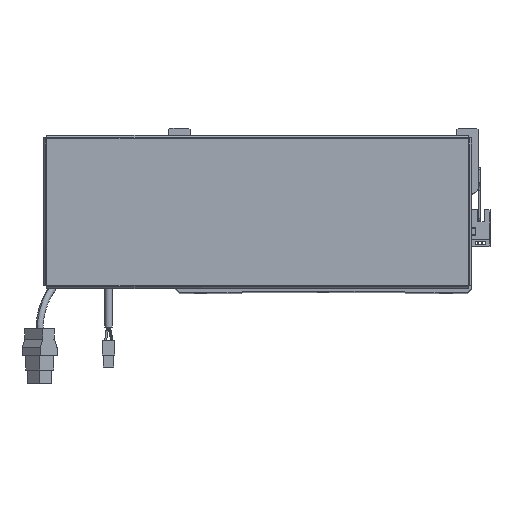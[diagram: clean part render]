
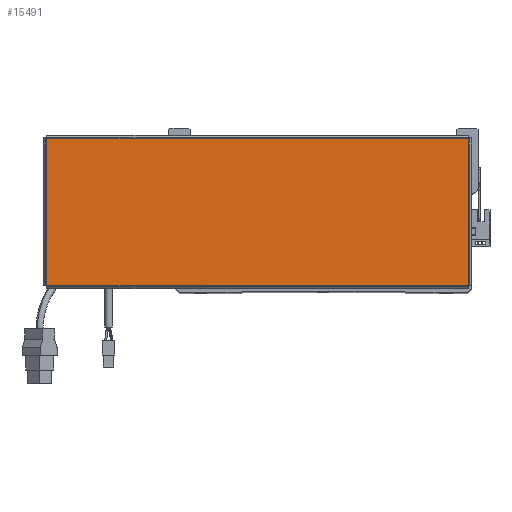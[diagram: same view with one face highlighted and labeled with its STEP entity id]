
A CAD part, top view. The second image highlights one B-rep face of the part: STEP entity #15491.
In plain terms, the highlighted planar face has unit normal (0, 0, 1).
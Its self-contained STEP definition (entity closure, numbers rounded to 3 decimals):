
#4694 = LINE ( 'NONE', #39513, #61417 ) ;
#8428 = LINE ( 'NONE', #19330, #21060 ) ;
#13345 = EDGE_CURVE ( 'NONE', #39660, #64721, #4694, .T. ) ;
#13964 = EDGE_LOOP ( 'NONE', ( #55134, #27823, #16116, #30550 ) ) ;
#15491 = ADVANCED_FACE ( 'NONE', ( #51747 ), #62370, .T. ) ;
#16116 = ORIENTED_EDGE ( 'NONE', *, *, #49746, .T. ) ;
#17086 = DIRECTION ( 'NONE',  ( 0., 0., 1. ) ) ;
#17261 = CARTESIAN_POINT ( 'NONE',  ( -156.513, 54.763, 0. ) ) ;
#19330 = CARTESIAN_POINT ( 'NONE',  ( 156.513, -54.793, 0. ) ) ;
#21060 = VECTOR ( 'NONE', #59598, 1000. ) ;
#24308 = DIRECTION ( 'NONE',  ( -1., 0., 0. ) ) ;
#24521 = CARTESIAN_POINT ( 'NONE',  ( 156.543, 54.763, 0. ) ) ;
#27026 = VECTOR ( 'NONE', #35652, 1000. ) ;
#27510 = AXIS2_PLACEMENT_3D ( 'NONE', #57779, #17086, #42639 ) ;
#27823 = ORIENTED_EDGE ( 'NONE', *, *, #50880, .T. ) ;
#30550 = ORIENTED_EDGE ( 'NONE', *, *, #13345, .T. ) ;
#31456 = LINE ( 'NONE', #24521, #58229 ) ;
#35652 = DIRECTION ( 'NONE',  ( 1., 0., 0. ) ) ;
#35743 = LINE ( 'NONE', #60916, #27026 ) ;
#38257 = EDGE_CURVE ( 'NONE', #64721, #61225, #35743, .T. ) ;
#39513 = CARTESIAN_POINT ( 'NONE',  ( -156.513, 54.793, 0. ) ) ;
#39660 = VERTEX_POINT ( 'NONE', #17261 ) ;
#42639 = DIRECTION ( 'NONE',  ( 1., 0., 0. ) ) ;
#43732 = DIRECTION ( 'NONE',  ( 0., -1., 0. ) ) ;
#46215 = CARTESIAN_POINT ( 'NONE',  ( -156.513, -54.763, 0. ) ) ;
#48889 = CARTESIAN_POINT ( 'NONE',  ( 156.513, -54.763, 0. ) ) ;
#49746 = EDGE_CURVE ( 'NONE', #51716, #39660, #31456, .T. ) ;
#50880 = EDGE_CURVE ( 'NONE', #61225, #51716, #8428, .T. ) ;
#51716 = VERTEX_POINT ( 'NONE', #59031 ) ;
#51747 = FACE_OUTER_BOUND ( 'NONE', #13964, .T. ) ;
#55134 = ORIENTED_EDGE ( 'NONE', *, *, #38257, .T. ) ;
#57779 = CARTESIAN_POINT ( 'NONE',  ( 0., 0., 0. ) ) ;
#58229 = VECTOR ( 'NONE', #24308, 1000. ) ;
#59031 = CARTESIAN_POINT ( 'NONE',  ( 156.513, 54.763, 0. ) ) ;
#59598 = DIRECTION ( 'NONE',  ( 0., 1., 0. ) ) ;
#60916 = CARTESIAN_POINT ( 'NONE',  ( -156.543, -54.763, 0. ) ) ;
#61225 = VERTEX_POINT ( 'NONE', #48889 ) ;
#61417 = VECTOR ( 'NONE', #43732, 1000. ) ;
#62370 = PLANE ( 'NONE',  #27510 ) ;
#64721 = VERTEX_POINT ( 'NONE', #46215 ) ;
